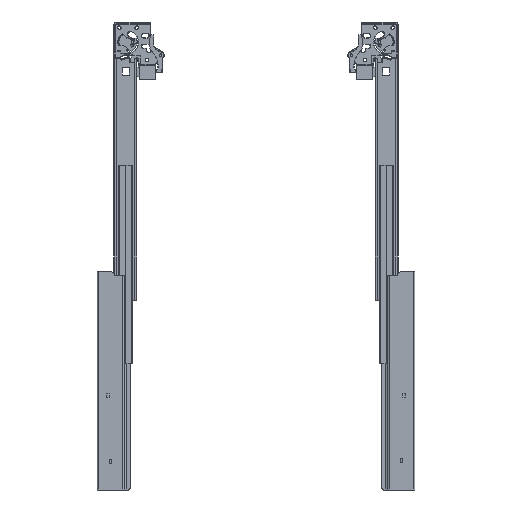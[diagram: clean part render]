
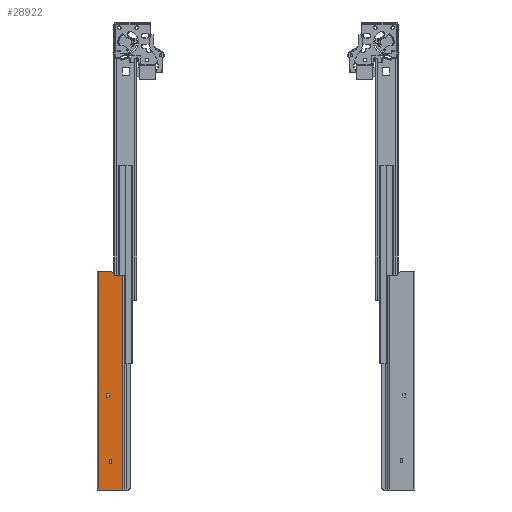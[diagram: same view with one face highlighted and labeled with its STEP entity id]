
A CAD part, front view. The second image highlights one B-rep face of the part: STEP entity #28922.
In plain terms, the highlighted planar face has unit normal (0, -1, 0).
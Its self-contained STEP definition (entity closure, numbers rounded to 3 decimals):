
#795=FACE_BOUND('',#5873,.T.);
#796=FACE_BOUND('',#5874,.T.);
#1083=CIRCLE('',#30805,2.);
#1085=CIRCLE('',#30809,2.);
#4020=FACE_OUTER_BOUND('',#5872,.T.);
#5872=EDGE_LOOP('',(#18471,#18472,#18473,#18474,#18475,#18476,#18477,#18478));
#5873=EDGE_LOOP('',(#18479,#18480,#18481,#18482));
#5874=EDGE_LOOP('',(#18483,#18484,#18485,#18486));
#7979=LINE('',#44672,#9889);
#7983=LINE('',#44680,#9893);
#7986=LINE('',#44686,#9896);
#7989=LINE('',#44691,#9899);
#7991=LINE('',#44697,#9901);
#7995=LINE('',#44705,#9905);
#7998=LINE('',#44711,#9908);
#8001=LINE('',#44716,#9911);
#8021=LINE('',#44776,#9931);
#8037=LINE('',#44823,#9947);
#8040=LINE('',#44833,#9950);
#8042=LINE('',#44839,#9952);
#8043=LINE('',#44841,#9953);
#8044=LINE('',#44842,#9954);
#9889=VECTOR('',#34776,5.);
#9893=VECTOR('',#34782,3.);
#9896=VECTOR('',#34787,5.);
#9899=VECTOR('',#34792,3.);
#9901=VECTOR('',#34798,6.);
#9905=VECTOR('',#34804,3.5);
#9908=VECTOR('',#34809,6.);
#9911=VECTOR('',#34814,3.5);
#9931=VECTOR('',#34870,5.414);
#9947=VECTOR('',#34912,9.672);
#9950=VECTOR('',#34921,270.);
#9952=VECTOR('',#34927,14.172);
#9953=VECTOR('',#34928,275.);
#9954=VECTOR('',#34929,30.5);
#11799=VERTEX_POINT('',#44670);
#11800=VERTEX_POINT('',#44671);
#11803=VERTEX_POINT('',#44679);
#11805=VERTEX_POINT('',#44685);
#11807=VERTEX_POINT('',#44695);
#11808=VERTEX_POINT('',#44696);
#11811=VERTEX_POINT('',#44704);
#11813=VERTEX_POINT('',#44710);
#11833=VERTEX_POINT('',#44766);
#11834=VERTEX_POINT('',#44768);
#11836=VERTEX_POINT('',#44774);
#11838=VERTEX_POINT('',#44780);
#11854=VERTEX_POINT('',#44822);
#11858=VERTEX_POINT('',#44832);
#11860=VERTEX_POINT('',#44838);
#11861=VERTEX_POINT('',#44840);
#14227=EDGE_CURVE('',#11799,#11800,#7979,.T.);
#14231=EDGE_CURVE('',#11800,#11803,#7983,.T.);
#14234=EDGE_CURVE('',#11803,#11805,#7986,.T.);
#14237=EDGE_CURVE('',#11805,#11799,#7989,.T.);
#14239=EDGE_CURVE('',#11807,#11808,#7991,.T.);
#14243=EDGE_CURVE('',#11808,#11811,#7995,.T.);
#14246=EDGE_CURVE('',#11811,#11813,#7998,.T.);
#14249=EDGE_CURVE('',#11813,#11807,#8001,.T.);
#14274=EDGE_CURVE('',#11833,#11834,#1083,.T.);
#14278=EDGE_CURVE('',#11833,#11836,#8021,.T.);
#14281=EDGE_CURVE('',#11838,#11836,#1085,.T.);
#14301=EDGE_CURVE('',#11854,#11834,#8037,.T.);
#14306=EDGE_CURVE('',#11854,#11858,#8040,.T.);
#14309=EDGE_CURVE('',#11860,#11838,#8042,.T.);
#14310=EDGE_CURVE('',#11860,#11861,#8043,.T.);
#14311=EDGE_CURVE('',#11858,#11861,#8044,.T.);
#18471=ORIENTED_EDGE('',*,*,#14281,.F.);
#18472=ORIENTED_EDGE('',*,*,#14309,.F.);
#18473=ORIENTED_EDGE('',*,*,#14310,.T.);
#18474=ORIENTED_EDGE('',*,*,#14311,.F.);
#18475=ORIENTED_EDGE('',*,*,#14306,.F.);
#18476=ORIENTED_EDGE('',*,*,#14301,.T.);
#18477=ORIENTED_EDGE('',*,*,#14274,.F.);
#18478=ORIENTED_EDGE('',*,*,#14278,.T.);
#18479=ORIENTED_EDGE('',*,*,#14227,.T.);
#18480=ORIENTED_EDGE('',*,*,#14231,.T.);
#18481=ORIENTED_EDGE('',*,*,#14234,.T.);
#18482=ORIENTED_EDGE('',*,*,#14237,.T.);
#18483=ORIENTED_EDGE('',*,*,#14239,.T.);
#18484=ORIENTED_EDGE('',*,*,#14243,.T.);
#18485=ORIENTED_EDGE('',*,*,#14246,.T.);
#18486=ORIENTED_EDGE('',*,*,#14249,.T.);
#26617=PLANE('',#30824);
#28922=ADVANCED_FACE('',(#4020,#795,#796),#26617,.T.);
#30805=AXIS2_PLACEMENT_3D('',#44769,#34863,#34864);
#30809=AXIS2_PLACEMENT_3D('',#44782,#34876,#34877);
#30824=AXIS2_PLACEMENT_3D('',#44837,#34925,#34926);
#34776=DIRECTION('',(0.,0.,1.));
#34782=DIRECTION('',(1.,0.,0.));
#34787=DIRECTION('',(0.,0.,-1.));
#34792=DIRECTION('',(-1.,0.,0.));
#34798=DIRECTION('',(0.,0.,1.));
#34804=DIRECTION('',(1.,0.,0.));
#34809=DIRECTION('',(0.,0.,-1.));
#34814=DIRECTION('',(-1.,0.,0.));
#34863=DIRECTION('center_axis',(0.,-1.,0.));
#34864=DIRECTION('ref_axis',(-0.383,0.,-0.924));
#34870=DIRECTION('',(-0.707,0.,0.707));
#34876=DIRECTION('center_axis',(0.,1.,0.));
#34877=DIRECTION('ref_axis',(0.383,0.,0.924));
#34912=DIRECTION('',(-1.,0.,0.));
#34921=DIRECTION('',(0.,0.,-1.));
#34925=DIRECTION('center_axis',(0.,-1.,0.));
#34926=DIRECTION('ref_axis',(-1.,0.,0.));
#34927=DIRECTION('',(1.,0.,0.));
#34928=DIRECTION('',(0.,0.,-1.));
#34929=DIRECTION('',(-1.,0.,0.));
#44670=CARTESIAN_POINT('',(12.,0.,-159.));
#44671=CARTESIAN_POINT('',(12.,0.,-154.));
#44672=CARTESIAN_POINT('',(12.,0.,-77.));
#44679=CARTESIAN_POINT('',(15.,0.,-154.));
#44680=CARTESIAN_POINT('',(23.75,0.,-154.));
#44685=CARTESIAN_POINT('',(15.,0.,-159.));
#44686=CARTESIAN_POINT('',(15.,0.,-79.5));
#44691=CARTESIAN_POINT('',(22.25,0.,-159.));
#44695=CARTESIAN_POINT('',(15.,0.,-242.));
#44696=CARTESIAN_POINT('',(15.,0.,-236.));
#44697=CARTESIAN_POINT('',(15.,0.,-118.));
#44704=CARTESIAN_POINT('',(18.5,0.,-236.));
#44705=CARTESIAN_POINT('',(25.5,0.,-236.));
#44710=CARTESIAN_POINT('',(18.5,0.,-242.));
#44711=CARTESIAN_POINT('',(18.5,0.,-121.));
#44716=CARTESIAN_POINT('',(23.75,0.,-242.));
#44766=CARTESIAN_POINT('',(21.414,0.,-4.414));
#44768=CARTESIAN_POINT('',(22.828,0.,-5.));
#44769=CARTESIAN_POINT('Origin',(22.828,0.,
-3.));
#44774=CARTESIAN_POINT('',(17.586,0.,-0.586));
#44776=CARTESIAN_POINT('',(23.375,0.,-6.375));
#44780=CARTESIAN_POINT('',(16.172,0.,0.));
#44782=CARTESIAN_POINT('Origin',(16.172,0.,
-2.));
#44822=CARTESIAN_POINT('',(32.5,0.,-5.));
#44823=CARTESIAN_POINT('',(35.75,0.,-5.));
#44832=CARTESIAN_POINT('',(32.5,0.,-275.));
#44833=CARTESIAN_POINT('',(32.5,0.,0.));
#44837=CARTESIAN_POINT('Origin',(32.5,0.,0.));
#44838=CARTESIAN_POINT('',(2.,0.,0.));
#44839=CARTESIAN_POINT('',(2.,0.,0.));
#44840=CARTESIAN_POINT('',(2.,0.,-275.));
#44841=CARTESIAN_POINT('',(2.,0.,0.));
#44842=CARTESIAN_POINT('',(2.,0.,-275.));
